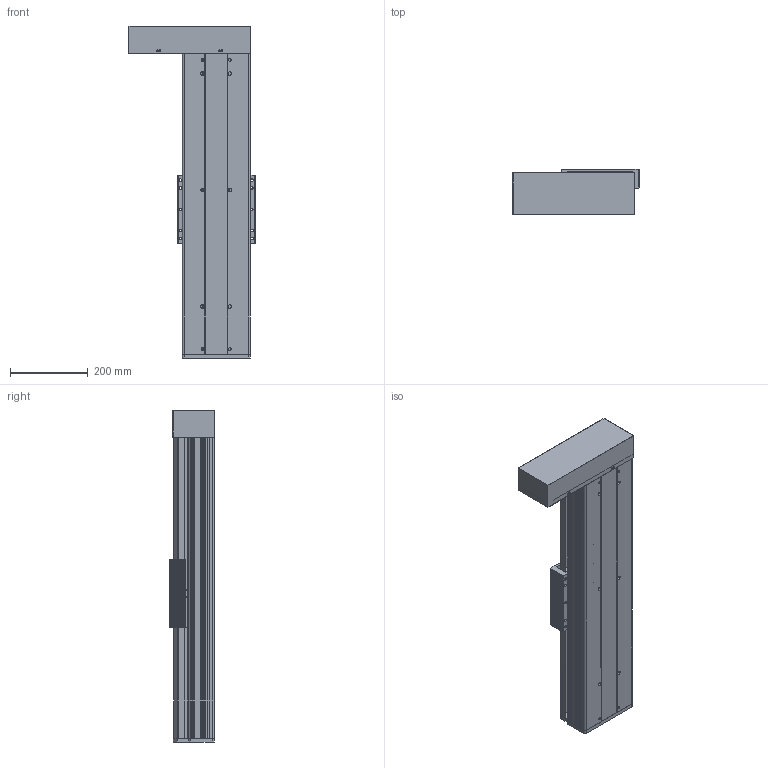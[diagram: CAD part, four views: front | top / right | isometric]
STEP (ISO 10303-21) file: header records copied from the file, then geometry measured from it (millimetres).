
FILE_DESCRIPTION (( 'STEP AP214' ), '1' );
FILE_NAME ('CF175B-C-500-FWL.STEP', '2019-12-03T03:13:14', ( '微软用户' ), ( '微软中国' ), 'SwSTEP 2.0', 'SolidWorks 2016', '' );
FILE_SCHEMA (( 'AUTOMOTIVE_DESIGN' ));
Length unit declared in the file: millimetre
Products named in the file (12): 肮祭謫欶; 175B殏俔萇儂啣; 175-2同步带从动端固定座; CF175-2賑雄啣; EGR20絳寢-500; 175B臏倰第-500; CF175B-500; CF175-2蹟譫釱; 175-2盓傅釱; 175-2耜啣; CF-EGH20CA賑輸; CF175B-C-500-FWL
Assembly tree (15 placements, depth 2):
  CF175B-C-500-FWL
    CF-EGH20CA賑輸  x4
    175-2耜啣
    175-2盓傅釱
    CF175-2蹟譫釱
    CF175B-500
    175B臏倰第-500
    EGR20絳寢-500  x2
    CF175-2賑雄啣
    175-2同步带从动端固定座
    175B殏俔萇儂啣
    肮祭謫欶
Bounding box: 324.5 x 118.3 x 855 mm (x, y, z)
Volume: 6706314.5 mm3; surface area: 1992438 mm2
Topology: 21 solids, 21 shells, 1306 faces, 3425 edges, 2269 vertices
Faces by surface type: plane 649, cylinder 647, cone 8, bspline 2
Entity records: 33478 total; most frequent: DIRECTION 5631, CARTESIAN_POINT 5525, ORIENTED_EDGE 5184, EDGE_CURVE 2592, AXIS2_PLACEMENT_3D 2067, VERTEX_POINT 1721, LINE 1497, VECTOR 1497
